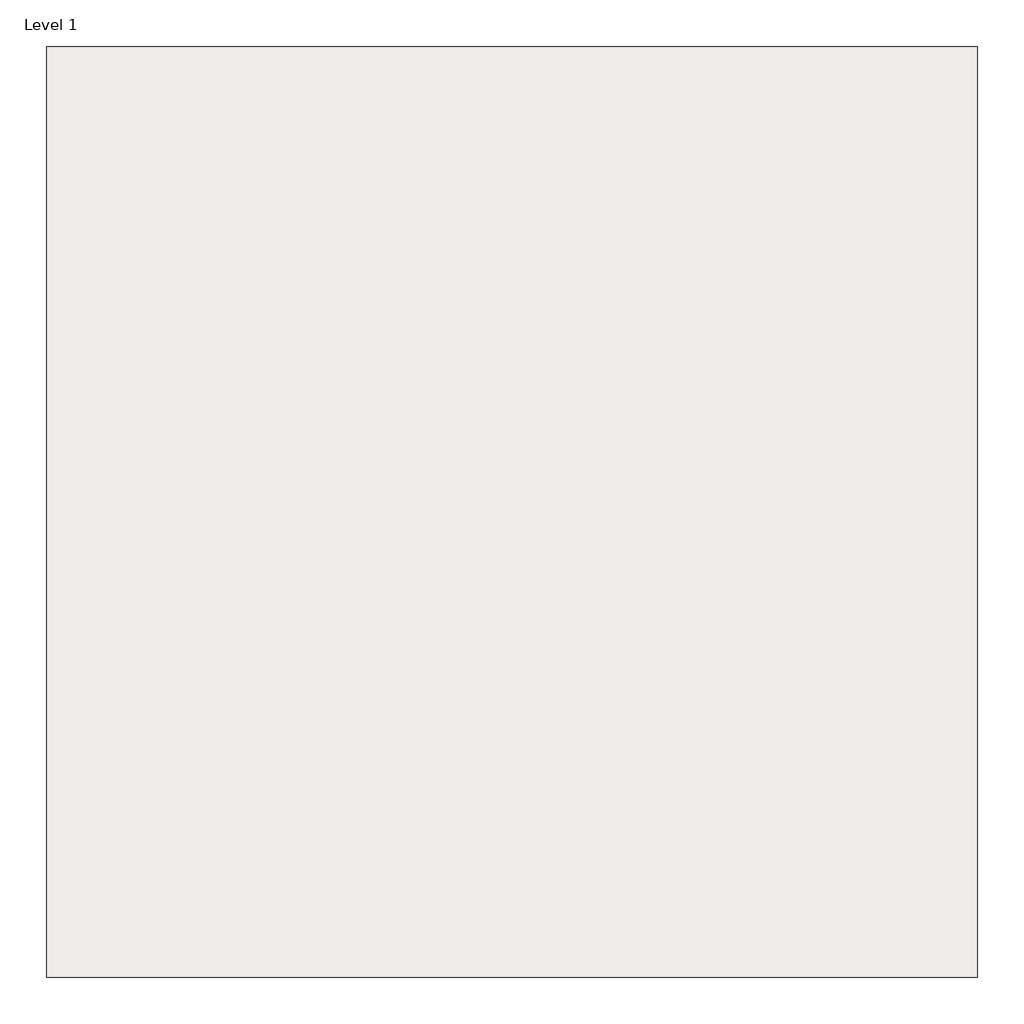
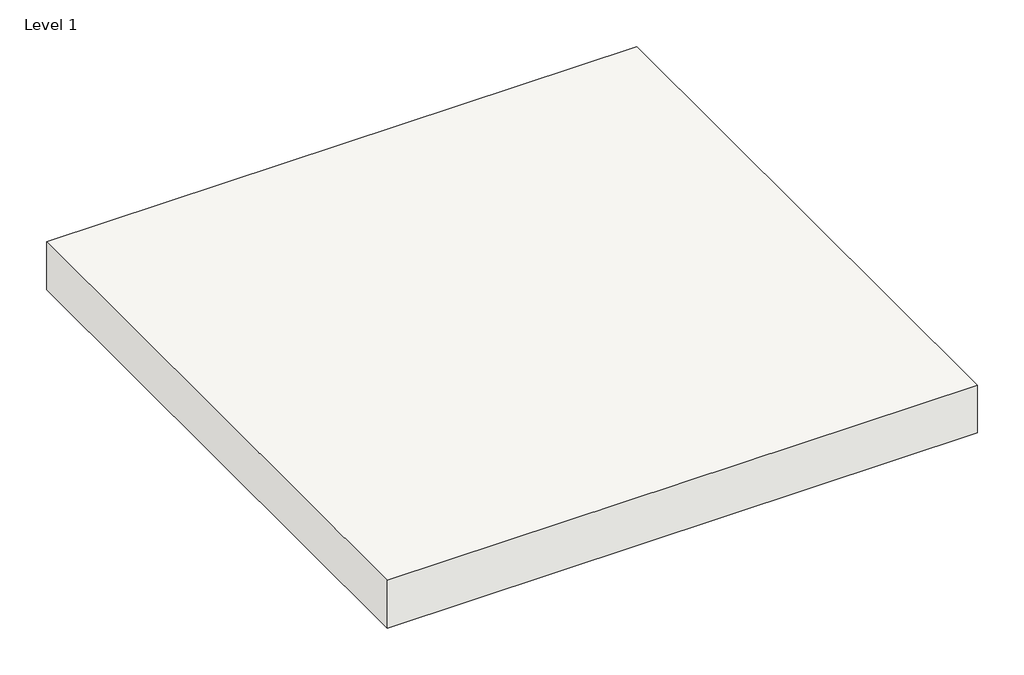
# One storey: 1 slab.
"""IFC4 building model written with IfcOpenShell, lengths in millimetres."""

from ifc_helpers import new_model, si_unit, frame, origin, place, context, project, spatial, polyline, outline, extrude, element, save

model = new_model("IFC4")

# Units and contexts
model_context = context("Model", 3, world=origin())
ifc_project = project(units=[si_unit("LENGTHUNIT", "METRE", prefix="MILLI")], contexts=[model_context])

# Site, building, storey
site = spatial("IfcSite", under=ifc_project)
building = spatial("IfcBuilding", under=site)
storey = spatial("IfcBuildingStorey", under=building, Name="Level 1", Elevation=0.0)

# Slab
placement = place(None, origin())
element("IfcSlab", 1, ObjectType="RIGIPS - 7.51.02 - 44dB", at=placement, inside=storey, context=model_context, shape_type="SweptSolid", body=[
    extrude(outline(polyline([(-1500.0, 1500.0), (1500.0, 1500.0), (1500.0, -1500.0), (-1500.0, -1500.0), (-1500.0, 1500.0)])), frame((0.0, 0.0, -257.5), z_axis=(0.0, 0.0, 1.0), x_axis=(1.0, 0.0, 0.0)), (0.0, 0.0, 1.0), 257.5),
])

save(model, "model.ifc")
